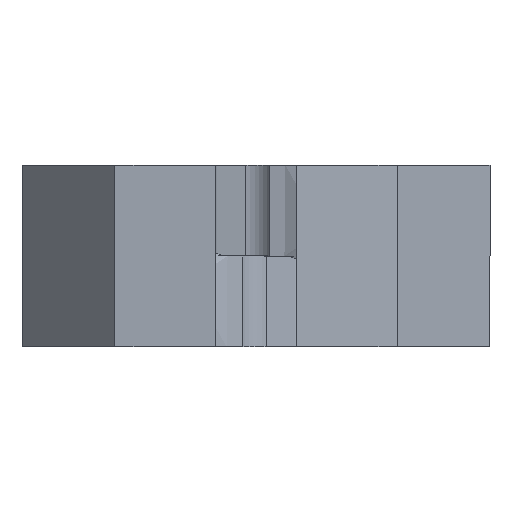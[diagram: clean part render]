
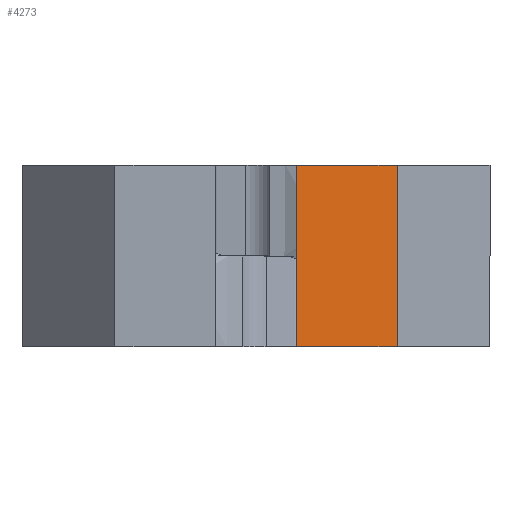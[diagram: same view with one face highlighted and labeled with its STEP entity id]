
A CAD part, left-side view. The second image highlights one B-rep face of the part: STEP entity #4273.
In plain terms, the highlighted planar face has unit normal (-0.997, -0.077, 0) as drawn and (-1, 0, 0) by its records, which use the part's own axes.
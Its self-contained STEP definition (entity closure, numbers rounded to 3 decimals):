
#105 = LINE ( 'NONE', #2347, #3705 ) ;
#242 = EDGE_CURVE ( 'NONE', #4173, #456, #1182, .T. ) ;
#385 = VECTOR ( 'NONE', #3406, 1000. ) ;
#399 = EDGE_LOOP ( 'NONE', ( #818, #847, #3354, #2122 ) ) ;
#456 = VERTEX_POINT ( 'NONE', #3096 ) ;
#530 = DIRECTION ( 'NONE',  ( 0., -1., 0. ) ) ;
#643 = LINE ( 'NONE', #2246, #2376 ) ;
#818 = ORIENTED_EDGE ( 'NONE', *, *, #921, .F. ) ;
#847 = ORIENTED_EDGE ( 'NONE', *, *, #4455, .F. ) ;
#921 = EDGE_CURVE ( 'NONE', #2685, #3338, #1176, .T. ) ;
#1120 = DIRECTION ( 'NONE',  ( -1., 0., 0. ) ) ;
#1176 = LINE ( 'NONE', #1671, #385 ) ;
#1182 = LINE ( 'NONE', #3706, #2950 ) ;
#1394 = EDGE_CURVE ( 'NONE', #456, #3338, #105, .T. ) ;
#1539 = DIRECTION ( 'NONE',  ( 0., -1., 0. ) ) ;
#1671 = CARTESIAN_POINT ( 'NONE',  ( -26., -5., 4.5 ) ) ;
#1792 = CARTESIAN_POINT ( 'NONE',  ( -26., 0., 0. ) ) ;
#2122 = ORIENTED_EDGE ( 'NONE', *, *, #1394, .T. ) ;
#2246 = CARTESIAN_POINT ( 'NONE',  ( -26., 0., 9. ) ) ;
#2347 = CARTESIAN_POINT ( 'NONE',  ( -26., -2.5, 0. ) ) ;
#2376 = VECTOR ( 'NONE', #530, 1000. ) ;
#2414 = DIRECTION ( 'NONE',  ( 0., 0., -1. ) ) ;
#2685 = VERTEX_POINT ( 'NONE', #3139 ) ;
#2697 = CARTESIAN_POINT ( 'NONE',  ( -26., 0., 9. ) ) ;
#2950 = VECTOR ( 'NONE', #2414, 1000. ) ;
#3096 = CARTESIAN_POINT ( 'NONE',  ( -26., 0., 0. ) ) ;
#3139 = CARTESIAN_POINT ( 'NONE',  ( -26., -5., 9. ) ) ;
#3241 = PLANE ( 'NONE',  #3323 ) ;
#3284 = FACE_OUTER_BOUND ( 'NONE', #399, .T. ) ;
#3323 = AXIS2_PLACEMENT_3D ( 'NONE', #1792, #1120, #3599 ) ;
#3338 = VERTEX_POINT ( 'NONE', #3678 ) ;
#3354 = ORIENTED_EDGE ( 'NONE', *, *, #242, .T. ) ;
#3406 = DIRECTION ( 'NONE',  ( 0., 0., -1. ) ) ;
#3599 = DIRECTION ( 'NONE',  ( 0., -1., 0. ) ) ;
#3678 = CARTESIAN_POINT ( 'NONE',  ( -26., -5., 0. ) ) ;
#3705 = VECTOR ( 'NONE', #1539, 1000. ) ;
#3706 = CARTESIAN_POINT ( 'NONE',  ( -26., 0., 4.5 ) ) ;
#4173 = VERTEX_POINT ( 'NONE', #2697 ) ;
#4273 = ADVANCED_FACE ( 'NONE', ( #3284 ), #3241, .T. ) ;
#4455 = EDGE_CURVE ( 'NONE', #4173, #2685, #643, .T. ) ;
